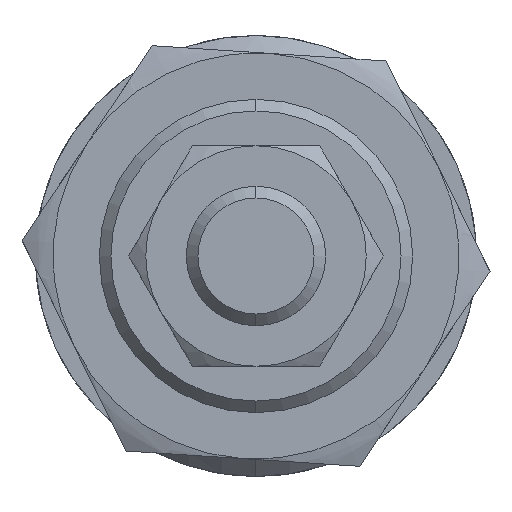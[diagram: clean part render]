
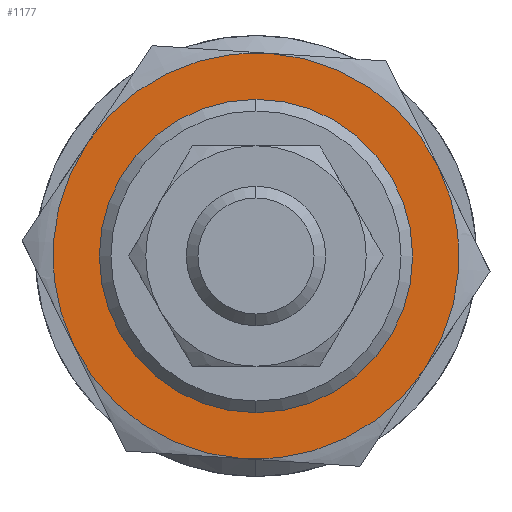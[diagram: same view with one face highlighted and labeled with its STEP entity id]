
A CAD part, left-side view. The second image highlights one B-rep face of the part: STEP entity #1177.
In plain terms, the highlighted planar face has unit normal (-1, 0, 0) as drawn and (0, 0, -1) by its records, which use the part's own axes.
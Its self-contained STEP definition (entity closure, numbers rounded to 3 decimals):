
#35 = DIRECTION ( 'NONE',  ( 1., 0., 0. ) ) ;
#63 = CIRCLE ( 'NONE', #1591, 17.5 ) ;
#68 = FACE_OUTER_BOUND ( 'NONE', #548, .T. ) ;
#235 = CIRCLE ( 'NONE', #2796, 12.5 ) ;
#270 = CARTESIAN_POINT ( 'NONE',  ( 0., 0., -5. ) ) ;
#282 = ORIENTED_EDGE ( 'NONE', *, *, #529, .F. ) ;
#366 = EDGE_CURVE ( 'NONE', #388, #2999, #919, .T. ) ;
#388 = VERTEX_POINT ( 'NONE', #1339 ) ;
#509 = ORIENTED_EDGE ( 'NONE', *, *, #2645, .F. ) ;
#529 = EDGE_CURVE ( 'NONE', #3076, #388, #2246, .T. ) ;
#548 = EDGE_LOOP ( 'NONE', ( #2281, #282, #1597, #2888, #509, #2016 ) ) ;
#666 = CARTESIAN_POINT ( 'NONE',  ( 8.75, -15.155, -5. ) ) ;
#793 = CIRCLE ( 'NONE', #1881, 17.5 ) ;
#812 = DIRECTION ( 'NONE',  ( 1., 0., 0. ) ) ;
#860 = AXIS2_PLACEMENT_3D ( 'NONE', #2417, #2902, #2391 ) ;
#919 = CIRCLE ( 'NONE', #1896, 17.5 ) ;
#929 = CARTESIAN_POINT ( 'NONE',  ( 8.75, 15.155, -5. ) ) ;
#963 = CARTESIAN_POINT ( 'NONE',  ( 0., 0., -5. ) ) ;
#1043 = CARTESIAN_POINT ( 'NONE',  ( 0., 0., -5. ) ) ;
#1075 = CIRCLE ( 'NONE', #860, 12.5 ) ;
#1098 = CARTESIAN_POINT ( 'NONE',  ( 0., 0., -5. ) ) ;
#1177 = ADVANCED_FACE ( 'NONE', ( #2624, #68 ), #1822, .F. ) ;
#1213 = DIRECTION ( 'NONE',  ( 0., 0., 1. ) ) ;
#1318 = DIRECTION ( 'NONE',  ( 0., 0., 1. ) ) ;
#1321 = CARTESIAN_POINT ( 'NONE',  ( 0., 0., -5. ) ) ;
#1330 = EDGE_CURVE ( 'NONE', #1613, #1910, #1075, .T. ) ;
#1332 = DIRECTION ( 'NONE',  ( 1., 0., 0. ) ) ;
#1338 = CARTESIAN_POINT ( 'NONE',  ( 0., 0., -5. ) ) ;
#1339 = CARTESIAN_POINT ( 'NONE',  ( 17.5, 0., -5. ) ) ;
#1439 = DIRECTION ( 'NONE',  ( 1., 0., 0. ) ) ;
#1448 = CARTESIAN_POINT ( 'NONE',  ( 0., 0., -5. ) ) ;
#1479 = EDGE_LOOP ( 'NONE', ( #2165, #3278 ) ) ;
#1528 = EDGE_CURVE ( 'NONE', #2999, #3046, #63, .T. ) ;
#1572 = DIRECTION ( 'NONE',  ( 1., 0., 0. ) ) ;
#1579 = DIRECTION ( 'NONE',  ( 1., 0., 0. ) ) ;
#1591 = AXIS2_PLACEMENT_3D ( 'NONE', #963, #1213, #3072 ) ;
#1597 = ORIENTED_EDGE ( 'NONE', *, *, #2599, .F. ) ;
#1613 = VERTEX_POINT ( 'NONE', #1726 ) ;
#1726 = CARTESIAN_POINT ( 'NONE',  ( 12.5, 0., -5. ) ) ;
#1735 = AXIS2_PLACEMENT_3D ( 'NONE', #3121, #2603, #1332 ) ;
#1822 = PLANE ( 'NONE',  #1735 ) ;
#1881 = AXIS2_PLACEMENT_3D ( 'NONE', #270, #2822, #3051 ) ;
#1896 = AXIS2_PLACEMENT_3D ( 'NONE', #1321, #2373, #812 ) ;
#1906 = CARTESIAN_POINT ( 'NONE',  ( -8.75, -15.155, -5. ) ) ;
#1910 = VERTEX_POINT ( 'NONE', #3166 ) ;
#1918 = CARTESIAN_POINT ( 'NONE',  ( -17.5, 0., -5. ) ) ;
#1970 = CARTESIAN_POINT ( 'NONE',  ( -8.75, 15.155, -5. ) ) ;
#2016 = ORIENTED_EDGE ( 'NONE', *, *, #1528, .F. ) ;
#2023 = VERTEX_POINT ( 'NONE', #1918 ) ;
#2094 = DIRECTION ( 'NONE',  ( 0., 0., 1. ) ) ;
#2165 = ORIENTED_EDGE ( 'NONE', *, *, #1330, .T. ) ;
#2229 = DIRECTION ( 'NONE',  ( 0., 0., 1. ) ) ;
#2246 = CIRCLE ( 'NONE', #3302, 17.5 ) ;
#2281 = ORIENTED_EDGE ( 'NONE', *, *, #366, .F. ) ;
#2371 = DIRECTION ( 'NONE',  ( 0., 0., 1. ) ) ;
#2373 = DIRECTION ( 'NONE',  ( 0., 0., 1. ) ) ;
#2391 = DIRECTION ( 'NONE',  ( 1., 0., 0. ) ) ;
#2417 = CARTESIAN_POINT ( 'NONE',  ( 0., 0., -5. ) ) ;
#2418 = CIRCLE ( 'NONE', #3258, 17.5 ) ;
#2424 = CIRCLE ( 'NONE', #3300, 17.5 ) ;
#2599 = EDGE_CURVE ( 'NONE', #2814, #3076, #793, .T. ) ;
#2603 = DIRECTION ( 'NONE',  ( 0., 0., 1. ) ) ;
#2624 = FACE_BOUND ( 'NONE', #1479, .T. ) ;
#2645 = EDGE_CURVE ( 'NONE', #3046, #2023, #2424, .T. ) ;
#2796 = AXIS2_PLACEMENT_3D ( 'NONE', #1098, #2094, #1579 ) ;
#2814 = VERTEX_POINT ( 'NONE', #1906 ) ;
#2822 = DIRECTION ( 'NONE',  ( 0., 0., 1. ) ) ;
#2888 = ORIENTED_EDGE ( 'NONE', *, *, #3084, .F. ) ;
#2902 = DIRECTION ( 'NONE',  ( 0., 0., 1. ) ) ;
#2999 = VERTEX_POINT ( 'NONE', #929 ) ;
#3046 = VERTEX_POINT ( 'NONE', #1970 ) ;
#3051 = DIRECTION ( 'NONE',  ( 1., 0., 0. ) ) ;
#3072 = DIRECTION ( 'NONE',  ( 1., 0., 0. ) ) ;
#3076 = VERTEX_POINT ( 'NONE', #666 ) ;
#3084 = EDGE_CURVE ( 'NONE', #2023, #2814, #2418, .T. ) ;
#3100 = EDGE_CURVE ( 'NONE', #1910, #1613, #235, .T. ) ;
#3121 = CARTESIAN_POINT ( 'NONE',  ( 0., 0., -5. ) ) ;
#3166 = CARTESIAN_POINT ( 'NONE',  ( -12.5, 0., -5. ) ) ;
#3258 = AXIS2_PLACEMENT_3D ( 'NONE', #1338, #2371, #1572 ) ;
#3278 = ORIENTED_EDGE ( 'NONE', *, *, #3100, .T. ) ;
#3300 = AXIS2_PLACEMENT_3D ( 'NONE', #1043, #1318, #35 ) ;
#3302 = AXIS2_PLACEMENT_3D ( 'NONE', #1448, #2229, #1439 ) ;
